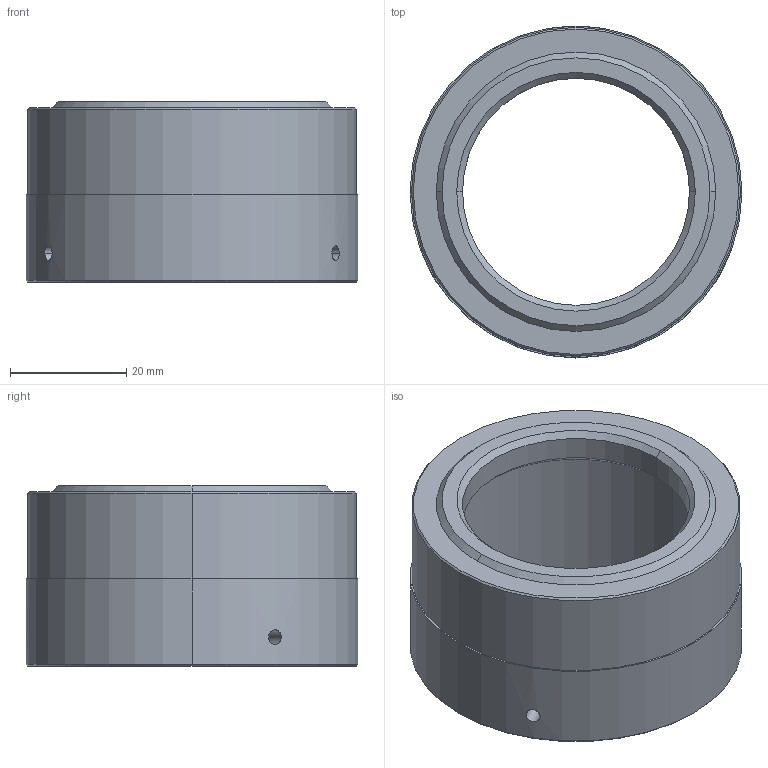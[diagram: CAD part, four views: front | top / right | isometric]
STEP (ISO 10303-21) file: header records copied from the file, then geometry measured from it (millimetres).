
FILE_DESCRIPTION (( 'STEP AP214' ), '1' );
FILE_NAME ('F80C-TUBE-Spacer B.STEP', '2026-03-02T00:57:24', ( '' ), ( '' ), 'SwSTEP 2.0', 'SolidWorks 2025', '' );
FILE_SCHEMA (( 'AUTOMOTIVE_DESIGN' ));
Length unit declared in the file: millimetre
Products named in the file (1): F80C-TUBE-Spacer B
Bounding box: 57 x 57 x 31 mm (x, y, z)
Volume: 26864 mm3; surface area: 12435.1 mm2
Topology: 1 solids, 1 shells, 29 faces, 64 edges, 40 vertices
Faces by surface type: cylinder 14, cone 10, plane 5
Entity records: 1045 total; most frequent: CARTESIAN_POINT 362, DIRECTION 140, ORIENTED_EDGE 128, EDGE_CURVE 64, AXIS2_PLACEMENT_3D 58, EDGE_LOOP 40, VERTEX_POINT 40, ADVANCED_FACE 29
